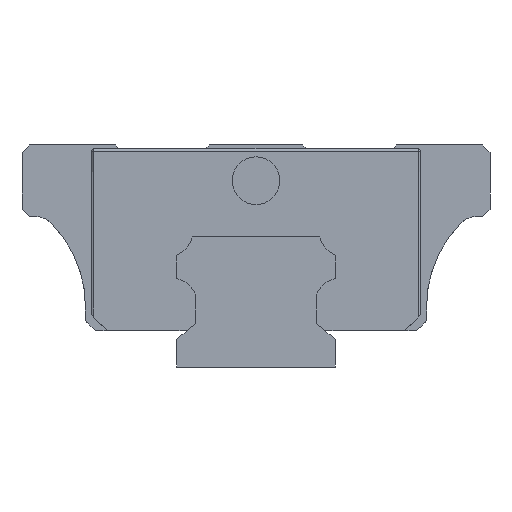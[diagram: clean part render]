
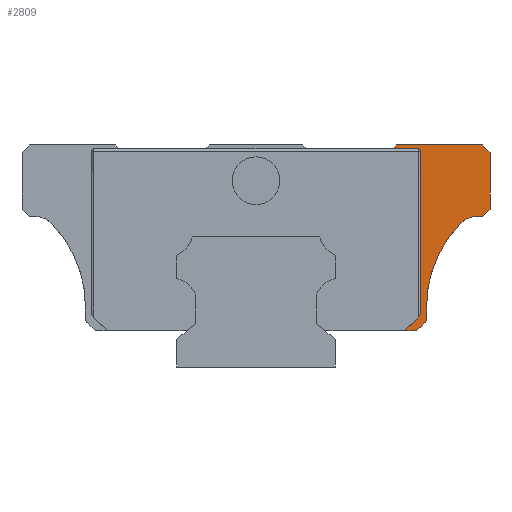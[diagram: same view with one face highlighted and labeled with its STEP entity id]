
A CAD part, left-side view. The second image highlights one B-rep face of the part: STEP entity #2809.
In plain terms, the highlighted planar face has unit normal (-1, 0, 0).
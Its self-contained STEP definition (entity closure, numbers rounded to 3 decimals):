
#11 = LINE ( 'NONE', #4608, #5114 ) ;
#32 = LINE ( 'NONE', #2279, #6367 ) ;
#55 = CARTESIAN_POINT ( 'NONE',  ( -13.9, -28.6, 19. ) ) ;
#60 = DIRECTION ( 'NONE',  ( 0., -1., 0. ) ) ;
#196 = CARTESIAN_POINT ( 'NONE',  ( -13.9, -29.5, 19.9 ) ) ;
#243 = DIRECTION ( 'NONE',  ( 0., 1., 0. ) ) ;
#387 = EDGE_CURVE ( 'NONE', #3151, #6229, #32, .T. ) ;
#473 = EDGE_LOOP ( 'NONE', ( #5594, #5957, #1112, #4246, #4107, #2287, #998, #1657, #3307, #2358, #724, #6344, #6423, #5951, #551 ) ) ;
#551 = ORIENTED_EDGE ( 'NONE', *, *, #4386, .T. ) ;
#558 = CIRCLE ( 'NONE', #3608, 3. ) ;
#574 = DIRECTION ( 'NONE',  ( 0., -0.707, 0.707 ) ) ;
#578 = EDGE_CURVE ( 'NONE', #3040, #3525, #4224, .T. ) ;
#724 = ORIENTED_EDGE ( 'NONE', *, *, #1067, .T. ) ;
#775 = DIRECTION ( 'NONE',  ( 0., 0., 1. ) ) ;
#811 = CARTESIAN_POINT ( 'NONE',  ( -13.9, -17.7, 28. ) ) ;
#813 = VERTEX_POINT ( 'NONE', #4856 ) ;
#921 = DIRECTION ( 'NONE',  ( -1., 0., 0. ) ) ;
#998 = ORIENTED_EDGE ( 'NONE', *, *, #3371, .F. ) ;
#1067 = EDGE_CURVE ( 'NONE', #5989, #7015, #3858, .T. ) ;
#1089 = AXIS2_PLACEMENT_3D ( 'NONE', #3017, #3497, #1267 ) ;
#1112 = ORIENTED_EDGE ( 'NONE', *, *, #387, .T. ) ;
#1178 = CARTESIAN_POINT ( 'NONE',  ( -13.9, -28.55, 28. ) ) ;
#1192 = VECTOR ( 'NONE', #1604, 1000. ) ;
#1198 = CARTESIAN_POINT ( 'NONE',  ( -13.9, -20.457, 27.5 ) ) ;
#1267 = DIRECTION ( 'NONE',  ( 0., 0., 1. ) ) ;
#1268 = CARTESIAN_POINT ( 'NONE',  ( -13.9, -29.5, 28. ) ) ;
#1370 = FACE_OUTER_BOUND ( 'NONE', #473, .T. ) ;
#1493 = VERTEX_POINT ( 'NONE', #1178 ) ;
#1546 = DIRECTION ( 'NONE',  ( 0., 0., 1. ) ) ;
#1604 = DIRECTION ( 'NONE',  ( 0., -1., 0. ) ) ;
#1657 = ORIENTED_EDGE ( 'NONE', *, *, #4888, .T. ) ;
#1725 = VECTOR ( 'NONE', #243, 1000. ) ;
#1784 = VECTOR ( 'NONE', #2975, 1000. ) ;
#1849 = EDGE_CURVE ( 'NONE', #5439, #813, #3983, .T. ) ;
#1869 = DIRECTION ( 'NONE',  ( 0., 0.707, 0.707 ) ) ;
#2156 = CARTESIAN_POINT ( 'NONE',  ( -13.9, -28.6, 19. ) ) ;
#2264 = CARTESIAN_POINT ( 'NONE',  ( -13.9, -25.788, 18.1 ) ) ;
#2266 = VERTEX_POINT ( 'NONE', #1198 ) ;
#2279 = CARTESIAN_POINT ( 'NONE',  ( -13.9, -17.7, 28. ) ) ;
#2285 = DIRECTION ( 'NONE',  ( 0., 1., 0. ) ) ;
#2287 = ORIENTED_EDGE ( 'NONE', *, *, #1849, .F. ) ;
#2349 = VERTEX_POINT ( 'NONE', #2476 ) ;
#2358 = ORIENTED_EDGE ( 'NONE', *, *, #6667, .T. ) ;
#2369 = VECTOR ( 'NONE', #5472, 1000. ) ;
#2392 = CARTESIAN_POINT ( 'NONE',  ( -13.9, -20.752, 6.605 ) ) ;
#2428 = DIRECTION ( 'NONE',  ( 1., 0., 0. ) ) ;
#2476 = CARTESIAN_POINT ( 'NONE',  ( -13.9, -21.5, 5.85 ) ) ;
#2535 = CARTESIAN_POINT ( 'NONE',  ( -13.9, -29.5, 19.9 ) ) ;
#2634 = LINE ( 'NONE', #5440, #2369 ) ;
#2735 = LINE ( 'NONE', #3871, #1192 ) ;
#2747 = LINE ( 'NONE', #4092, #4227 ) ;
#2809 = ADVANCED_FACE ( 'NONE', ( #1370 ), #3609, .T. ) ;
#2975 = DIRECTION ( 'NONE',  ( 0., -0.707, 0.707 ) ) ;
#3017 = CARTESIAN_POINT ( 'NONE',  ( -13.9, -20.457, 27.205 ) ) ;
#3040 = VERTEX_POINT ( 'NONE', #55 ) ;
#3151 = VERTEX_POINT ( 'NONE', #811 ) ;
#3152 = DIRECTION ( 'NONE',  ( 0., 0., 1. ) ) ;
#3214 = VECTOR ( 'NONE', #2285, 1000. ) ;
#3269 = AXIS2_PLACEMENT_3D ( 'NONE', #6370, #2428, #5268 ) ;
#3307 = ORIENTED_EDGE ( 'NONE', *, *, #4624, .T. ) ;
#3371 = EDGE_CURVE ( 'NONE', #3774, #5439, #11, .T. ) ;
#3433 = CARTESIAN_POINT ( 'NONE',  ( -13.9, -21.5, 7.6 ) ) ;
#3497 = DIRECTION ( 'NONE',  ( 1., 0., 0. ) ) ;
#3525 = VERTEX_POINT ( 'NONE', #196 ) ;
#3558 = LINE ( 'NONE', #5260, #7255 ) ;
#3608 = AXIS2_PLACEMENT_3D ( 'NONE', #6594, #3922, #1546 ) ;
#3609 = PLANE ( 'NONE',  #3698 ) ;
#3698 = AXIS2_PLACEMENT_3D ( 'NONE', #5853, #921, #3152 ) ;
#3735 = EDGE_CURVE ( 'NONE', #1493, #3151, #5082, .T. ) ;
#3774 = VERTEX_POINT ( 'NONE', #4558 ) ;
#3832 = CARTESIAN_POINT ( 'NONE',  ( -13.9, -27.93, 19. ) ) ;
#3858 = CIRCLE ( 'NONE', #3269, 15. ) ;
#3871 = CARTESIAN_POINT ( 'NONE',  ( -13.9, -10.439, 4.6 ) ) ;
#3874 = VERTEX_POINT ( 'NONE', #4679 ) ;
#3893 = DIRECTION ( 'NONE',  ( 0., 0.643, -0.766 ) ) ;
#3922 = DIRECTION ( 'NONE',  ( 1., 0., 0. ) ) ;
#3983 = LINE ( 'NONE', #5173, #5049 ) ;
#4023 = VECTOR ( 'NONE', #775, 1000. ) ;
#4092 = CARTESIAN_POINT ( 'NONE',  ( -13.9, -21.5, 5.85 ) ) ;
#4107 = ORIENTED_EDGE ( 'NONE', *, *, #5378, .T. ) ;
#4224 = LINE ( 'NONE', #2535, #1784 ) ;
#4227 = VECTOR ( 'NONE', #4988, 1000. ) ;
#4243 = CIRCLE ( 'NONE', #1089, 0.295 ) ;
#4246 = ORIENTED_EDGE ( 'NONE', *, *, #6642, .F. ) ;
#4386 = EDGE_CURVE ( 'NONE', #3525, #3874, #2634, .T. ) ;
#4558 = CARTESIAN_POINT ( 'NONE',  ( -13.9, -18.746, 4.6 ) ) ;
#4608 = CARTESIAN_POINT ( 'NONE',  ( -13.9, -18.746, 4.6 ) ) ;
#4619 = VECTOR ( 'NONE', #60, 1000. ) ;
#4624 = EDGE_CURVE ( 'NONE', #7087, #2349, #2747, .T. ) ;
#4662 = CARTESIAN_POINT ( 'NONE',  ( -13.9, -20.542, 27.5 ) ) ;
#4679 = CARTESIAN_POINT ( 'NONE',  ( -13.9, -29.5, 27.05 ) ) ;
#4701 = LINE ( 'NONE', #4662, #1725 ) ;
#4734 = CARTESIAN_POINT ( 'NONE',  ( -13.9, -20.25, 4.6 ) ) ;
#4856 = CARTESIAN_POINT ( 'NONE',  ( -13.9, -20.752, 27.205 ) ) ;
#4888 = EDGE_CURVE ( 'NONE', #3774, #7087, #2735, .T. ) ;
#4988 = DIRECTION ( 'NONE',  ( 0., -0.707, 0.707 ) ) ;
#5049 = VECTOR ( 'NONE', #5686, 1000. ) ;
#5082 = LINE ( 'NONE', #1268, #3214 ) ;
#5114 = VECTOR ( 'NONE', #574, 1000. ) ;
#5173 = CARTESIAN_POINT ( 'NONE',  ( -13.9, -20.752, 6.6 ) ) ;
#5260 = CARTESIAN_POINT ( 'NONE',  ( -13.9, -28.55, 28. ) ) ;
#5268 = DIRECTION ( 'NONE',  ( 0., 0., 1. ) ) ;
#5378 = EDGE_CURVE ( 'NONE', #2266, #813, #4243, .T. ) ;
#5439 = VERTEX_POINT ( 'NONE', #2392 ) ;
#5440 = CARTESIAN_POINT ( 'NONE',  ( -13.9, -29.5, 19. ) ) ;
#5472 = DIRECTION ( 'NONE',  ( 0., 0., 1. ) ) ;
#5585 = LINE ( 'NONE', #2156, #4619 ) ;
#5594 = ORIENTED_EDGE ( 'NONE', *, *, #6596, .T. ) ;
#5686 = DIRECTION ( 'NONE',  ( 0., 0., 1. ) ) ;
#5712 = EDGE_CURVE ( 'NONE', #7015, #6179, #558, .T. ) ;
#5803 = LINE ( 'NONE', #6881, #4023 ) ;
#5853 = CARTESIAN_POINT ( 'NONE',  ( -13.9, 0., 17.29 ) ) ;
#5951 = ORIENTED_EDGE ( 'NONE', *, *, #578, .T. ) ;
#5957 = ORIENTED_EDGE ( 'NONE', *, *, #3735, .T. ) ;
#5989 = VERTEX_POINT ( 'NONE', #3433 ) ;
#6159 = CARTESIAN_POINT ( 'NONE',  ( -13.9, -17.28, 27.5 ) ) ;
#6179 = VERTEX_POINT ( 'NONE', #3832 ) ;
#6229 = VERTEX_POINT ( 'NONE', #6159 ) ;
#6344 = ORIENTED_EDGE ( 'NONE', *, *, #5712, .T. ) ;
#6367 = VECTOR ( 'NONE', #3893, 1000. ) ;
#6370 = CARTESIAN_POINT ( 'NONE',  ( -13.9, -36.5, 7.6 ) ) ;
#6423 = ORIENTED_EDGE ( 'NONE', *, *, #6469, .T. ) ;
#6469 = EDGE_CURVE ( 'NONE', #6179, #3040, #5585, .T. ) ;
#6594 = CARTESIAN_POINT ( 'NONE',  ( -13.9, -27.93, 16. ) ) ;
#6596 = EDGE_CURVE ( 'NONE', #3874, #1493, #3558, .T. ) ;
#6642 = EDGE_CURVE ( 'NONE', #2266, #6229, #4701, .T. ) ;
#6667 = EDGE_CURVE ( 'NONE', #2349, #5989, #5803, .T. ) ;
#6881 = CARTESIAN_POINT ( 'NONE',  ( -13.9, -21.5, 7.6 ) ) ;
#7015 = VERTEX_POINT ( 'NONE', #2264 ) ;
#7087 = VERTEX_POINT ( 'NONE', #4734 ) ;
#7255 = VECTOR ( 'NONE', #1869, 1000. ) ;
